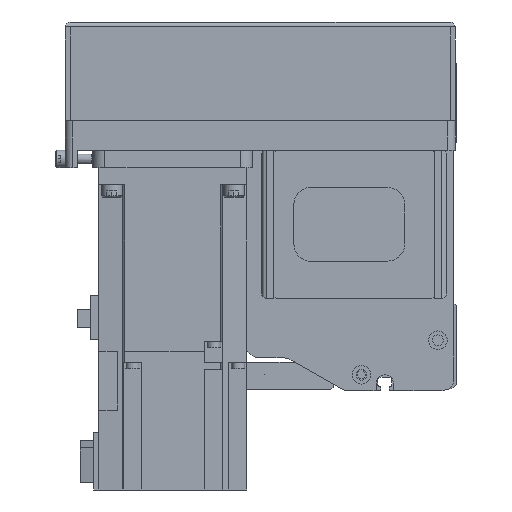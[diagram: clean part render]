
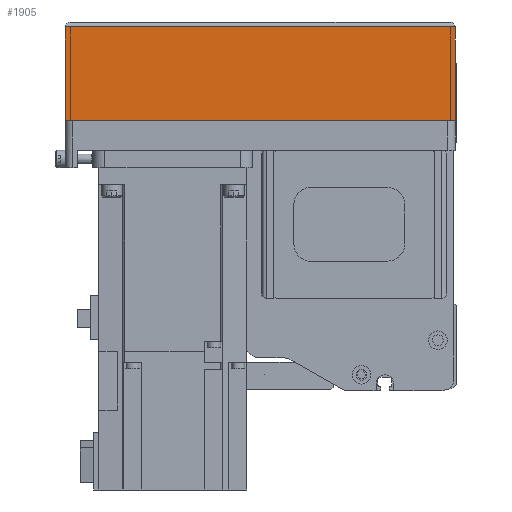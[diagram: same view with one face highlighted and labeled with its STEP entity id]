
A CAD part, left-side view. The second image highlights one B-rep face of the part: STEP entity #1905.
In plain terms, the highlighted planar face has unit normal (-1, 0, 0) as drawn and (0, 1, 0) by its records, which use the part's own axes.
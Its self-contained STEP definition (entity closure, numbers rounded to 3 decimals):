
#1905 = ADVANCED_FACE( '', ( #4509 ), #4510, .T. );
#4509 = FACE_OUTER_BOUND( '', #8013, .T. );
#4510 = PLANE( '', #8014 );
#8013 = EDGE_LOOP( '', ( #13307, #13308, #13309, #13310 ) );
#8014 = AXIS2_PLACEMENT_3D( '', #13311, #13312, #13313 );
#13307 = ORIENTED_EDGE( '', *, *, #19731, .F. );
#13308 = ORIENTED_EDGE( '', *, *, #21381, .F. );
#13309 = ORIENTED_EDGE( '', *, *, #20906, .T. );
#13310 = ORIENTED_EDGE( '', *, *, #21382, .T. );
#13311 = CARTESIAN_POINT( '', ( -158., 39., -50. ) );
#13312 = DIRECTION( '', ( 0., 1., 0. ) );
#13313 = DIRECTION( '', ( 0., 0., 1. ) );
#19731 = EDGE_CURVE( '', #23351, #23352, #23353, .T. );
#20906 = EDGE_CURVE( '', #25374, #25372, #25375, .T. );
#21381 = EDGE_CURVE( '', #25374, #23351, #26122, .T. );
#21382 = EDGE_CURVE( '', #25372, #23352, #26123, .T. );
#23351 = VERTEX_POINT( '', #28746 );
#23352 = VERTEX_POINT( '', #28747 );
#23353 = LINE( '', #28748, #28749 );
#25372 = VERTEX_POINT( '', #31884 );
#25374 = VERTEX_POINT( '', #31887 );
#25375 = LINE( '', #31888, #31889 );
#26122 = LINE( '', #33010, #33011 );
#26123 = LINE( '', #33012, #33013 );
#28746 = CARTESIAN_POINT( '', ( 0., 39., -50. ) );
#28747 = CARTESIAN_POINT( '', ( 0., 39., -12.1 ) );
#28748 = CARTESIAN_POINT( '', ( 0., 39., -50. ) );
#28749 = VECTOR( '', #36947, 1000. );
#31884 = CARTESIAN_POINT( '', ( -158., 39., -12.1 ) );
#31887 = CARTESIAN_POINT( '', ( -158., 39., -50. ) );
#31888 = CARTESIAN_POINT( '', ( -158., 39., -50. ) );
#31889 = VECTOR( '', #38447, 1000. );
#33010 = CARTESIAN_POINT( '', ( -158., 39., -50. ) );
#33011 = VECTOR( '', #39031, 1000. );
#33012 = CARTESIAN_POINT( '', ( -158., 39., -12.1 ) );
#33013 = VECTOR( '', #39032, 1000. );
#36947 = DIRECTION( '', ( 0., 0., 1. ) );
#38447 = DIRECTION( '', ( 0., 0., 1. ) );
#39031 = DIRECTION( '', ( 1., 0., 0. ) );
#39032 = DIRECTION( '', ( 1., 0., 0. ) );
